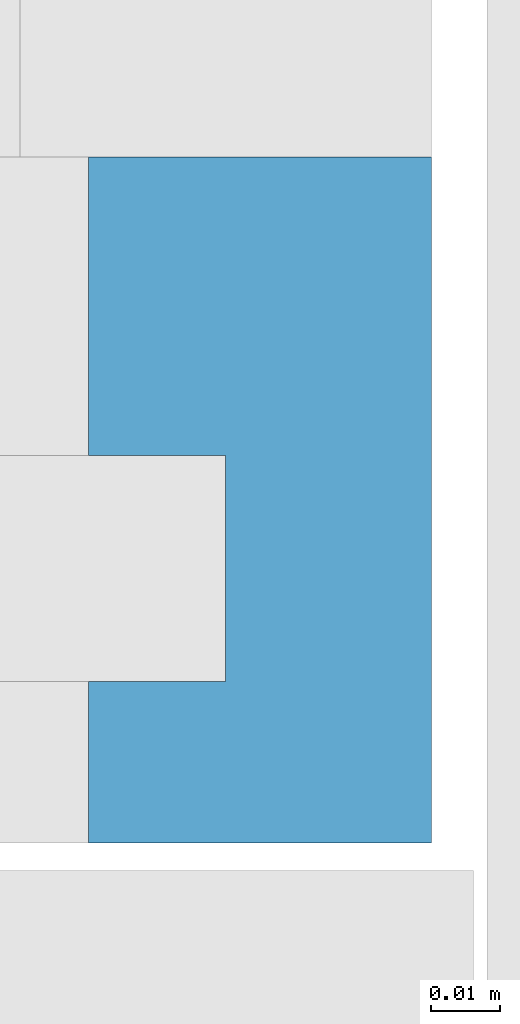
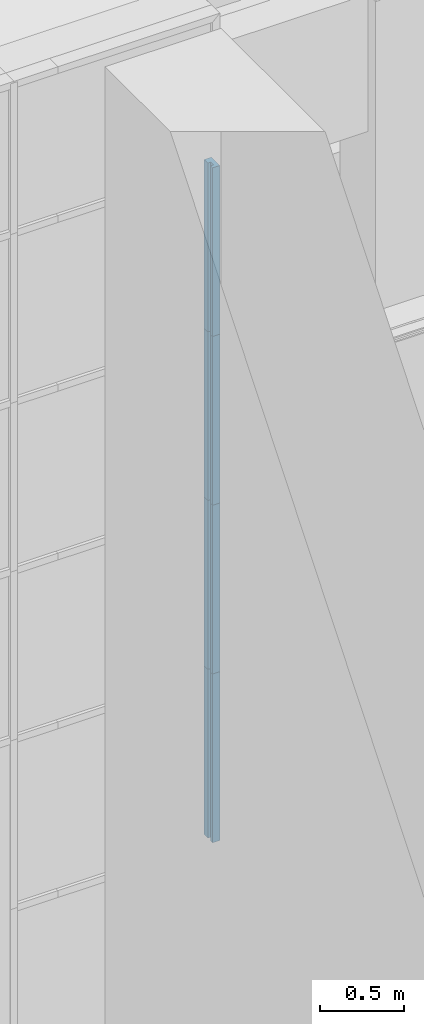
# One storey, part 12 of 260: 4 members, 1 element without a shape of its own.
"""IFC2X3 building model written with IfcOpenShell, lengths in millimetres."""

from ifc_helpers import new_model, entity, si_unit, converted_unit, derived_unit, money_unit, direction, frame, origin_with_axes, place, context, subcontext, project, spatial, faceted_brep, source, transform, mapped, material, type_object, element, aggregate, save


model = new_model("IFC2X3")

# Units and contexts
model_context = context("Model", 3, precision=0.01, world=origin_with_axes(), true_north=direction((0.0, 1.0)))
body_context = subcontext(model_context, "Body", "Model", "MODEL_VIEW")
ifc_project = project(units=[si_unit("LENGTHUNIT", "METRE", prefix="MILLI"), si_unit("AREAUNIT", "SQUARE_METRE"), si_unit("VOLUMEUNIT", "CUBIC_METRE"), converted_unit("PLANEANGLEUNIT", "DEGREE", entity("IfcPlaneAngleMeasure", 0.0174532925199), si_unit("PLANEANGLEUNIT", "RADIAN"), dimensions=[0, 0, 0, 0, 0, 0, 0]), money_unit("EUR"), converted_unit("TIMEUNIT", "Year", entity("IfcTimeMeasure", 31556926.0), si_unit("TIMEUNIT", "SECOND"), dimensions=[0, 0, 1, 0, 0, 0, 0]), si_unit("MASSUNIT", "GRAM", prefix="KILO"), si_unit("THERMODYNAMICTEMPERATUREUNIT", "DEGREE_CELSIUS"), si_unit("LUMINOUSINTENSITYUNIT", "LUMEN"), si_unit("ENERGYUNIT", "JOULE", prefix="MEGA"), derived_unit("THERMALCONDUCTANCEUNIT", [(si_unit("POWERUNIT", "WATT"), 1), (si_unit("LENGTHUNIT", "METRE"), -1), (si_unit("THERMODYNAMICTEMPERATUREUNIT", "KELVIN"), -1)]), derived_unit("SPECIFICHEATCAPACITYUNIT", [(si_unit("ENERGYUNIT", "JOULE"), 1), (si_unit("MASSUNIT", "GRAM", prefix="KILO"), -1), (si_unit("THERMODYNAMICTEMPERATUREUNIT", "KELVIN"), -1)]), derived_unit("MASSDENSITYUNIT", [(si_unit("MASSUNIT", "GRAM", prefix="KILO"), 1), (si_unit("VOLUMEUNIT", "CUBIC_METRE"), -1)])], contexts=[model_context])

# Site, building, storey
site_placement = place(None, origin_with_axes())
site = spatial("IfcSite", under=ifc_project, at=site_placement, Name="Kolde pst 67a", CompositionType="ELEMENT")
building_placement = place(site_placement, origin_with_axes())
building = spatial("IfcBuilding", under=site, at=building_placement, Name="Riigigümnaasium", CompositionType="ELEMENT")
storey_placement = place(building_placement, origin_with_axes())
storey = spatial("IfcBuildingStorey", under=building, at=storey_placement, Name="1. korrus", CompositionType="ELEMENT", Elevation=0.0)

# Curtain wall, members
curtain_wall_type = type_object("IfcCurtainWallType", Name="Curtain Wall Type", PredefinedType="NOTDEFINED")
curtain_wall_placement = place(storey_placement, frame((47829.9854655, 8727.77020058, -0.000749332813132), z_axis=(0.0, 0.0, 1.0), x_axis=(1.0, 0.0, 0.0)))
curtain_wall = element("IfcCurtainWall", 1, at=curtain_wall_placement, inside=storey, type_object=curtain_wall_type, Name="KLAASFASSAAD")
ifc_material = material(Name="_METALL - alumiinium")
member_type = type_object("IfcMemberType", Name="Boundary Frame 50 x 100", PredefinedType="MEMBER")
shared_shape = source(origin_with_axes(), body_context, "Body", "Brep", [
    faceted_brep([(-30.0, -16.5, 1230.0), (-50.0, -16.5, 1230.0), (-50.0, -60.0, 1230.0), (0.0, -60.0, 1230.0), (0.0, 40.0, 1230.0), (-50.0, 40.0, 1230.0), (-50.0, 16.5, 1230.0), (-30.0, 16.5, 1230.0), (-30.0, -16.5, 0.0), (-50.0, -16.5, 0.0), (-50.0, -60.0, 0.0), (0.0, -60.0, 0.0), (0.0, 40.0, 0.0), (-50.0, 40.0, 0.0), (-50.0, 16.5, 0.0), (-30.0, 16.5, 0.0)], [[[0, 1, 2, 3, 4, 5, 6, 7]], [[0, 8, 9, 1]], [[9, 10, 2, 1]], [[10, 11, 3, 2]], [[11, 12, 4, 3]], [[12, 13, 5, 4]], [[6, 5, 13, 14]], [[14, 15, 7, 6]], [[7, 15, 8, 0]], [[8, 15, 14, 13, 12, 11, 10, 9]]]),
])
member_1_placement = place(curtain_wall_placement, frame((7219.88143544, -1457.7720558, 2460.00074933), z_axis=(0.0, 0.0, -1.0), x_axis=(-1.0, 2.70881141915e-07, 0.0)))
member_1 = element("IfcMember", 2, at=member_1_placement, type_object=member_type, material=ifc_material, Name="RF RAAM SERV-551", ObjectType="MEMBER", context=body_context, shape_type="MappedRepresentation", body=[
    mapped(shared_shape, transform((0.0, 0.0, 0.0), x_axis=(-1.0, 2.70881141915e-07, 0.0), y_axis=(-2.70881141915e-07, -1.0, 0.0), z_axis=(0.0, 0.0, 1.0))),
])
member_2_placement = place(curtain_wall_placement, frame((7219.88143544, -1457.7720558, 3690.00074933), z_axis=(0.0, 0.0, -1.0), x_axis=(-1.0, 2.70881141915e-07, 0.0)))
member_2 = element("IfcMember", 3, at=member_2_placement, type_object=member_type, material=ifc_material, Name="RF RAAM SERV-550", ObjectType="MEMBER", context=body_context, shape_type="MappedRepresentation", body=[
    mapped(shared_shape, transform((0.0, 0.0, 0.0), x_axis=(-1.0, 2.70881141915e-07, 0.0), y_axis=(-2.70881141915e-07, -1.0, 0.0), z_axis=(0.0, 0.0, 1.0))),
])
member_3_placement = place(curtain_wall_placement, frame((7219.88143544, -1457.7720558, 4920.00074933), z_axis=(0.0, 0.0, -1.0), x_axis=(-1.0, 2.70881141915e-07, 0.0)))
member_3 = element("IfcMember", 4, at=member_3_placement, type_object=member_type, material=ifc_material, Name="RF RAAM SERV-549", ObjectType="MEMBER", context=body_context, shape_type="MappedRepresentation", body=[
    mapped(shared_shape, transform((0.0, 0.0, 0.0), x_axis=(-1.0, 2.70881141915e-07, 0.0), y_axis=(-2.70881141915e-07, -1.0, 0.0), z_axis=(0.0, 0.0, 1.0))),
])
member_4_placement = place(curtain_wall_placement, frame((7219.88143544, -1457.7720558, 6150.00074933), z_axis=(0.0, 0.0, -1.0), x_axis=(-1.0, 2.70881141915e-07, 0.0)))
member_4 = element("IfcMember", 5, at=member_4_placement, type_object=member_type, material=ifc_material, Name="RF RAAM SERV-548", ObjectType="MEMBER", context=body_context, shape_type="MappedRepresentation", body=[
    mapped(shared_shape, transform((0.0, 0.0, 0.0), x_axis=(-1.0, 2.70881141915e-07, 0.0), y_axis=(-2.70881141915e-07, -1.0, 0.0), z_axis=(0.0, 0.0, 1.0))),
])
aggregate(curtain_wall, [member_1, member_2, member_3, member_4])

save(model, "model.ifc")
